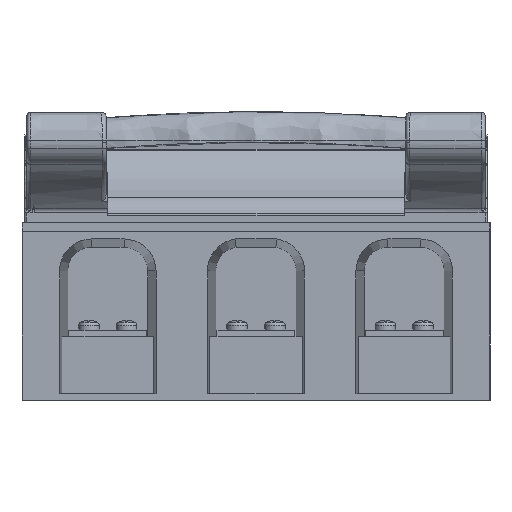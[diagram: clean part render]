
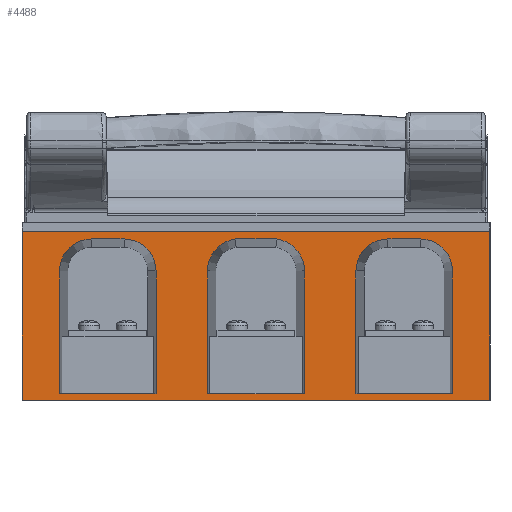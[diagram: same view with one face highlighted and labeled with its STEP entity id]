
A CAD part, left-side view. The second image highlights one B-rep face of the part: STEP entity #4488.
In plain terms, the highlighted planar face has unit normal (-1, 0, 0).
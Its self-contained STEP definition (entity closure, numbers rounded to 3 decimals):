
#964=FACE_BOUND('',#10543,.T.);
#965=FACE_BOUND('',#10544,.T.);
#966=FACE_BOUND('',#10545,.T.);
#967=FACE_BOUND('',#10546,.T.);
#1857=CIRCLE('',#41859,12.394);
#1858=CIRCLE('',#41860,12.394);
#1859=CIRCLE('',#41861,12.289);
#1860=CIRCLE('',#41862,12.289);
#1861=CIRCLE('',#41863,12.289);
#1862=CIRCLE('',#41864,12.289);
#4488=ADVANCED_FACE('',(#964,#965,#966,#967),#6556,.F.);
#6556=PLANE('',#41865);
#10543=EDGE_LOOP('',(#16345,#16346,#16347,#16348,#16349,#16350));
#10544=EDGE_LOOP('',(#16351,#16352,#16353,#16354,#16355,#16356));
#10545=EDGE_LOOP('',(#16357,#16358,#16359,#16360));
#10546=EDGE_LOOP('',(#16361,#16362,#16363,#16364,#16365,#16366));
#16345=ORIENTED_EDGE('',*,*,#31104,.T.);
#16346=ORIENTED_EDGE('',*,*,#29704,.T.);
#16347=ORIENTED_EDGE('',*,*,#31105,.T.);
#16348=ORIENTED_EDGE('',*,*,#31106,.F.);
#16349=ORIENTED_EDGE('',*,*,#31107,.F.);
#16350=ORIENTED_EDGE('',*,*,#31108,.T.);
#16351=ORIENTED_EDGE('',*,*,#31109,.F.);
#16352=ORIENTED_EDGE('',*,*,#31110,.F.);
#16353=ORIENTED_EDGE('',*,*,#31111,.T.);
#16354=ORIENTED_EDGE('',*,*,#31112,.T.);
#16355=ORIENTED_EDGE('',*,*,#31113,.T.);
#16356=ORIENTED_EDGE('',*,*,#31114,.T.);
#16357=ORIENTED_EDGE('',*,*,#31079,.T.);
#16358=ORIENTED_EDGE('',*,*,#31077,.T.);
#16359=ORIENTED_EDGE('',*,*,#30994,.T.);
#16360=ORIENTED_EDGE('',*,*,#29551,.F.);
#16361=ORIENTED_EDGE('',*,*,#29711,.F.);
#16362=ORIENTED_EDGE('',*,*,#31115,.F.);
#16363=ORIENTED_EDGE('',*,*,#31116,.T.);
#16364=ORIENTED_EDGE('',*,*,#31117,.T.);
#16365=ORIENTED_EDGE('',*,*,#29708,.T.);
#16366=ORIENTED_EDGE('',*,*,#31118,.T.);
#25649=VERTEX_POINT('',#56716);
#25656=VERTEX_POINT('',#56729);
#25806=VERTEX_POINT('',#57310);
#25808=VERTEX_POINT('',#57327);
#25810=VERTEX_POINT('',#57332);
#25812=VERTEX_POINT('',#57336);
#25814=VERTEX_POINT('',#57342);
#25815=VERTEX_POINT('',#57344);
#26603=VERTEX_POINT('',#61051);
#26613=VERTEX_POINT('',#61649);
#26638=VERTEX_POINT('',#61703);
#26639=VERTEX_POINT('',#61705);
#26640=VERTEX_POINT('',#61707);
#26641=VERTEX_POINT('',#61709);
#26642=VERTEX_POINT('',#61712);
#26643=VERTEX_POINT('',#61713);
#26644=VERTEX_POINT('',#61715);
#26645=VERTEX_POINT('',#61717);
#26646=VERTEX_POINT('',#61719);
#26647=VERTEX_POINT('',#61721);
#26648=VERTEX_POINT('',#61724);
#26649=VERTEX_POINT('',#61726);
#29551=EDGE_CURVE('',#25656,#25649,#35607,.T.);
#29704=EDGE_CURVE('',#25806,#25808,#35697,.T.);
#29708=EDGE_CURVE('',#25810,#25812,#35701,.T.);
#29711=EDGE_CURVE('',#25814,#25815,#35704,.T.);
#30994=EDGE_CURVE('',#26603,#25649,#36397,.T.);
#31077=EDGE_CURVE('',#26613,#26603,#36412,.T.);
#31079=EDGE_CURVE('',#25656,#26613,#36414,.T.);
#31104=EDGE_CURVE('',#26638,#25806,#1857,.T.);
#31105=EDGE_CURVE('',#25808,#26639,#1858,.T.);
#31106=EDGE_CURVE('',#26640,#26639,#36427,.T.);
#31107=EDGE_CURVE('',#26641,#26640,#36428,.T.);
#31108=EDGE_CURVE('',#26641,#26638,#36429,.T.);
#31109=EDGE_CURVE('',#26642,#26643,#36430,.T.);
#31110=EDGE_CURVE('',#26644,#26642,#36431,.T.);
#31111=EDGE_CURVE('',#26644,#26645,#36432,.T.);
#31112=EDGE_CURVE('',#26645,#26646,#1859,.T.);
#31113=EDGE_CURVE('',#26646,#26647,#36433,.T.);
#31114=EDGE_CURVE('',#26647,#26643,#1860,.T.);
#31115=EDGE_CURVE('',#26648,#25814,#36434,.T.);
#31116=EDGE_CURVE('',#26648,#26649,#36435,.T.);
#31117=EDGE_CURVE('',#26649,#25810,#1861,.T.);
#31118=EDGE_CURVE('',#25812,#25815,#1862,.T.);
#35607=LINE('',#56730,#38159);
#35697=LINE('',#57328,#38249);
#35701=LINE('',#57337,#38253);
#35704=LINE('',#57343,#38256);
#36397=LINE('',#61054,#38949);
#36412=LINE('',#61648,#38964);
#36414=LINE('',#61652,#38966);
#36427=LINE('',#61706,#38979);
#36428=LINE('',#61708,#38980);
#36429=LINE('',#61710,#38981);
#36430=LINE('',#61711,#38982);
#36431=LINE('',#61714,#38983);
#36432=LINE('',#61716,#38984);
#36433=LINE('',#61720,#38985);
#36434=LINE('',#61723,#38986);
#36435=LINE('',#61725,#38987);
#38159=VECTOR('',#45203,1.);
#38249=VECTOR('',#45373,1.);
#38253=VECTOR('',#45379,1.);
#38256=VECTOR('',#45384,1.);
#38949=VECTOR('',#47841,1.);
#38964=VECTOR('',#48194,1.);
#38966=VECTOR('',#48198,1.);
#38979=VECTOR('',#48241,1.);
#38980=VECTOR('',#48242,1.);
#38981=VECTOR('',#48243,1.);
#38982=VECTOR('',#48244,1.);
#38983=VECTOR('',#48245,1.);
#38984=VECTOR('',#48246,1.);
#38985=VECTOR('',#48249,1.);
#38986=VECTOR('',#48252,1.);
#38987=VECTOR('',#48253,1.);
#41859=AXIS2_PLACEMENT_3D('',#61702,#48237,#48238);
#41860=AXIS2_PLACEMENT_3D('',#61704,#48239,#48240);
#41861=AXIS2_PLACEMENT_3D('',#61718,#48247,#48248);
#41862=AXIS2_PLACEMENT_3D('',#61722,#48250,#48251);
#41863=AXIS2_PLACEMENT_3D('',#61727,#48254,#48255);
#41864=AXIS2_PLACEMENT_3D('',#61728,#48256,#48257);
#41865=AXIS2_PLACEMENT_3D('',#61729,#48258,#48259);
#45203=DIRECTION('',(0.,0.,1.));
#45373=DIRECTION('',(0.,-1.,0.));
#45379=DIRECTION('',(0.,-1.,0.));
#45384=DIRECTION('',(0.,0.,1.));
#47841=DIRECTION('',(0.,1.,0.));
#48194=DIRECTION('',(0.,0.,1.));
#48198=DIRECTION('',(0.,-1.,0.));
#48237=DIRECTION('',(1.,0.,0.));
#48238=DIRECTION('',(0.,0.,-1.));
#48239=DIRECTION('',(1.,0.,0.));
#48240=DIRECTION('',(0.,0.,-1.));
#48241=DIRECTION('',(0.,0.,1.));
#48242=DIRECTION('',(0.,-1.,0.));
#48243=DIRECTION('',(0.,0.,1.));
#48244=DIRECTION('',(0.,0.,1.));
#48245=DIRECTION('',(0.,-1.,0.));
#48246=DIRECTION('',(0.,0.,1.));
#48247=DIRECTION('',(1.,0.,0.));
#48248=DIRECTION('',(0.,0.,-1.));
#48249=DIRECTION('',(0.,-1.,0.));
#48250=DIRECTION('',(1.,0.,0.));
#48251=DIRECTION('',(0.,0.,-1.));
#48252=DIRECTION('',(0.,-1.,0.));
#48253=DIRECTION('',(0.,0.,1.));
#48254=DIRECTION('',(1.,0.,0.));
#48255=DIRECTION('',(0.,0.,-1.));
#48256=DIRECTION('',(1.,0.,0.));
#48257=DIRECTION('',(0.,0.,-1.));
#48258=DIRECTION('',(1.,0.,0.));
#48259=DIRECTION('',(0.,1.,0.));
#56716=CARTESIAN_POINT('',(-103.372,99.784,177.006));
#56729=CARTESIAN_POINT('',(-103.372,99.784,112.088));
#56730=CARTESIAN_POINT('',(-103.372,99.784,117.088));
#57310=CARTESIAN_POINT('',(-103.372,17.643,174.128));
#57327=CARTESIAN_POINT('',(-103.372,1.926,174.128));
#57328=CARTESIAN_POINT('',(-103.372,95.284,174.128));
#57332=CARTESIAN_POINT('',(-103.372,-40.966,174.128));
#57336=CARTESIAN_POINT('',(-103.372,-53.466,174.128));
#57337=CARTESIAN_POINT('',(-103.372,95.284,174.128));
#57342=CARTESIAN_POINT('',(-103.372,-65.755,114.588));
#57343=CARTESIAN_POINT('',(-103.372,-65.755,203.088));
#57344=CARTESIAN_POINT('',(-103.372,-65.755,161.838));
#61051=CARTESIAN_POINT('',(-103.372,-80.216,177.006));
#61054=CARTESIAN_POINT('',(-103.372,95.284,177.006));
#61648=CARTESIAN_POINT('',(-103.372,-80.216,117.088));
#61649=CARTESIAN_POINT('',(-103.372,-80.216,112.088));
#61652=CARTESIAN_POINT('',(-103.372,95.284,112.088));
#61702=CARTESIAN_POINT('',(-103.372,16.034,161.838));
#61703=CARTESIAN_POINT('',(-103.372,28.429,161.838));
#61704=CARTESIAN_POINT('',(-103.372,3.534,161.838));
#61705=CARTESIAN_POINT('',(-103.372,-8.86,161.838));
#61706=CARTESIAN_POINT('',(-103.372,-8.86,203.088));
#61707=CARTESIAN_POINT('',(-103.372,-8.86,114.588));
#61708=CARTESIAN_POINT('',(-103.372,95.284,114.588));
#61709=CARTESIAN_POINT('',(-103.372,28.429,114.588));
#61710=CARTESIAN_POINT('',(-103.372,28.429,203.088));
#61711=CARTESIAN_POINT('',(-103.372,48.245,203.088));
#61712=CARTESIAN_POINT('',(-103.372,48.245,114.588));
#61713=CARTESIAN_POINT('',(-103.372,48.245,161.838));
#61714=CARTESIAN_POINT('',(-103.372,95.284,114.588));
#61715=CARTESIAN_POINT('',(-103.372,85.324,114.588));
#61716=CARTESIAN_POINT('',(-103.372,85.324,203.088));
#61717=CARTESIAN_POINT('',(-103.372,85.324,161.838));
#61718=CARTESIAN_POINT('',(-103.372,73.034,161.838));
#61719=CARTESIAN_POINT('',(-103.372,73.034,174.128));
#61720=CARTESIAN_POINT('',(-103.372,95.284,174.128));
#61721=CARTESIAN_POINT('',(-103.372,60.534,174.128));
#61722=CARTESIAN_POINT('',(-103.372,60.534,161.838));
#61723=CARTESIAN_POINT('',(-103.372,95.284,114.588));
#61724=CARTESIAN_POINT('',(-103.372,-28.676,114.588));
#61725=CARTESIAN_POINT('',(-103.372,-28.676,203.088));
#61726=CARTESIAN_POINT('',(-103.372,-28.676,161.838));
#61727=CARTESIAN_POINT('',(-103.372,-40.966,161.838));
#61728=CARTESIAN_POINT('',(-103.372,-53.466,161.838));
#61729=CARTESIAN_POINT('',(-103.372,95.284,203.088));
